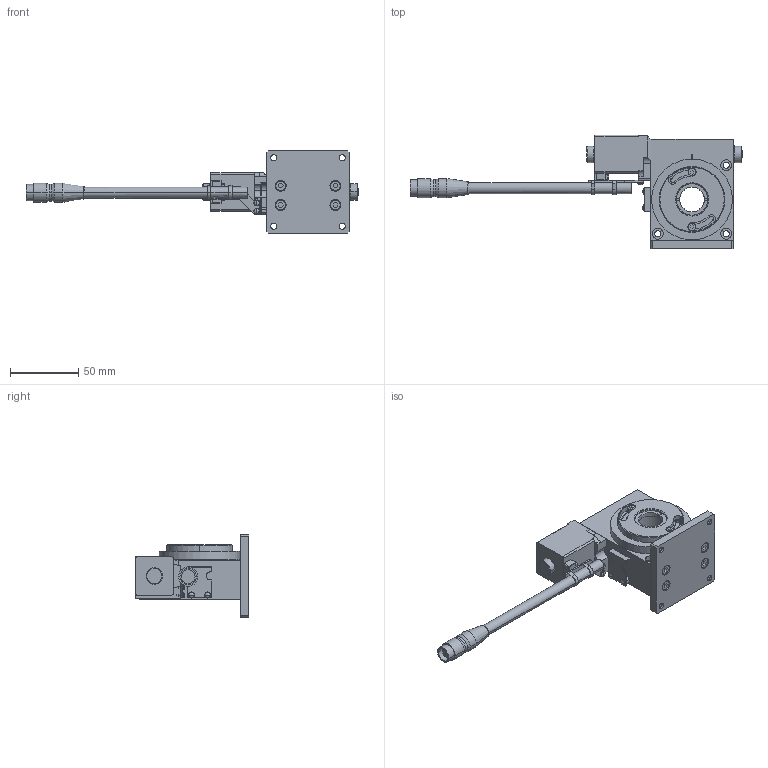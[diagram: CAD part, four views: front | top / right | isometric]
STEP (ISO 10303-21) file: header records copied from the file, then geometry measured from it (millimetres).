
FILE_DESCRIPTION(('STEP AP203'),'1');
FILE_NAME('C:\3D-trans/3D_FPW06360C-3P+240902.step','2024-09-02T06:49:52',(' '),(' '),'Spatial InterOp 3D',' ',' ');
FILE_SCHEMA(('CONFIG_CONTROL_DESIGN'));
Length unit declared in the file: millimetre
Products named in the file (13): 1; 2; 3; 4; 5; 6; 7; 8; 9; 10; 11; 12; 13
Bounding box: 242.5 x 83 x 60 mm (x, y, z)
Volume: 194534.3 mm3; surface area: 63597.5 mm2
Topology: 13 solids, 13 shells, 531 faces, 1303 edges, 831 vertices
Faces by surface type: plane 235, cylinder 224, cone 62, sphere 8, torus 2
Entity records: 16469 total; most frequent: DIRECTION 2883, CARTESIAN_POINT 2878, ORIENTED_EDGE 2574, EDGE_CURVE 1287, AXIS2_PLACEMENT_3D 1068, VERTEX_POINT 831, LINE 747, VECTOR 747
